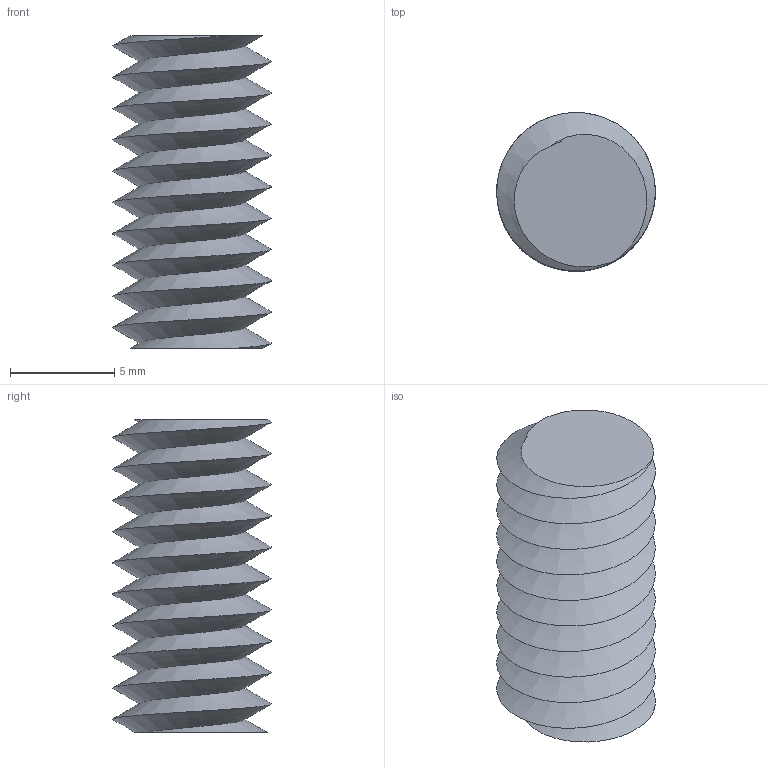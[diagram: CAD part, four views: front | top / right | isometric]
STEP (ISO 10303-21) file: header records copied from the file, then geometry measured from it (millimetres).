
FILE_DESCRIPTION(/* description */ (''),/* implementation_level */ '2;1');
FILE_NAME(/* name */ '/Users/paulokiefe/Desktop/STEMFIE/Templates/3D files/Thread 15 mm - female (stackable 10x thread pitch w. offset).step',/* time_stamp */ '2020-09-29T09:32:32+02:00',/* author */ (''),/* organization */ (''),/* preprocessor_version */ 'ST-DEVELOPER v18.1',/* originating_system */ 'Autodesk Translation Framework v9.3.0.1241',/* authorisation */ '');
FILE_SCHEMA (('AUTOMOTIVE_DESIGN { 1 0 10303 214 3 1 1 }'));
Length unit declared in the file: millimetre
Products named in the file (1): Thread 15 mm - female (stackable 10x thread pitch w. offset)
Bounding box: 7.61 x 7.6 x 15 mm (x, y, z)
Volume: 474.4 mm3; surface area: 658 mm2
Topology: 1 solids, 1 shells, 4 faces, 6 edges, 4 vertices
Faces by surface type: plane 2, bspline 2
Entity records: 1788 total; most frequent: CARTESIAN_POINT 1698, ORIENTED_EDGE 12, B_SPLINE_CURVE_WITH_KNOTS 6, EDGE_CURVE 6, DIRECTION 6, FACE_OUTER_BOUND 4, EDGE_LOOP 4, VERTEX_POINT 4
